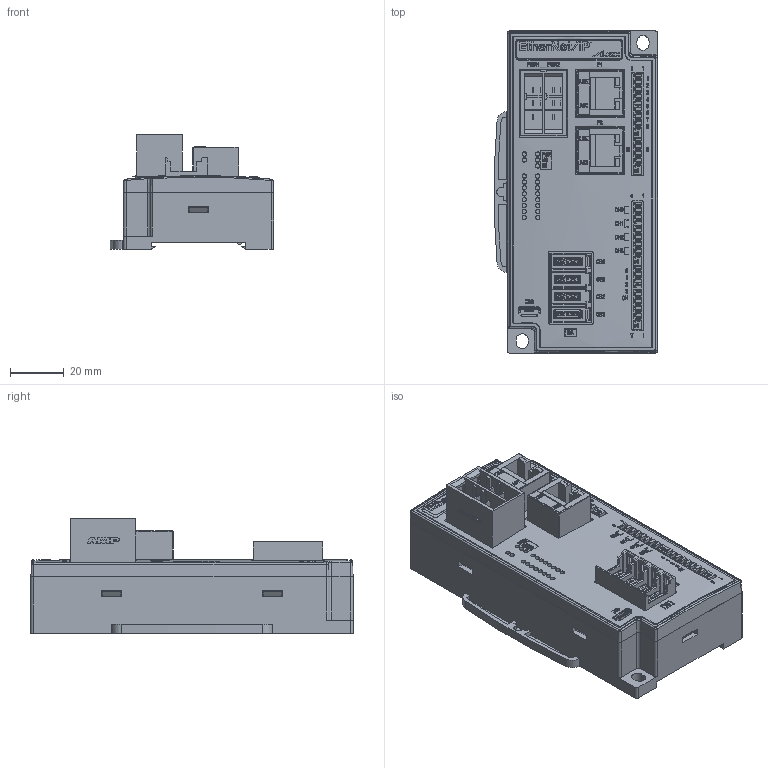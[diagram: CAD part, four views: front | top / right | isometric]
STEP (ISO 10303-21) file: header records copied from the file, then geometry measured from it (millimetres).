
FILE_DESCRIPTION((''),'2;1');
FILE_NAME('EIEA04','2026-05-11T15:54:31',('gijyu181'),(''),'CREO PARAMETRIC BY PTC INC, 2018050','CREO PARAMETRIC BY PTC INC, 2018050','');
FILE_SCHEMA(('CONFIG_CONTROL_DESIGN','SHAPE_APPEARANCE_LAYERS_GROUPS'));
Products named in the file (1): EIEA04
Bounding box: 60.87 x 120 x 42.6 mm (x, y, z)
Volume: 134799.8 mm3; surface area: 85405.2 mm2
Topology: 5 solids, 35 shells, 10403 faces, 29329 edges, 19495 vertices
Faces by surface type: plane 8497, extrusion 967, cylinder 805, bspline 69, cone 41, torus 20, sphere 4
Entity records: 415537 total; most frequent: CARTESIAN_POINT 88060, ORIENTED_EDGE 58658, DIRECTION 48184, EDGE_CURVE 29329, VECTOR 25942, LINE 24975, VERTEX_POINT 19495, EDGE_LOOP 11458
